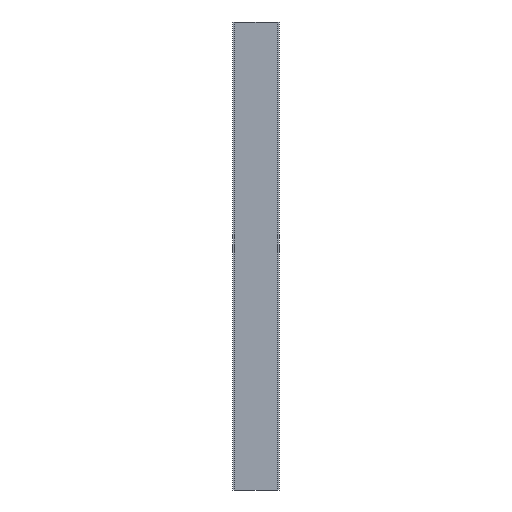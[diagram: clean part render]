
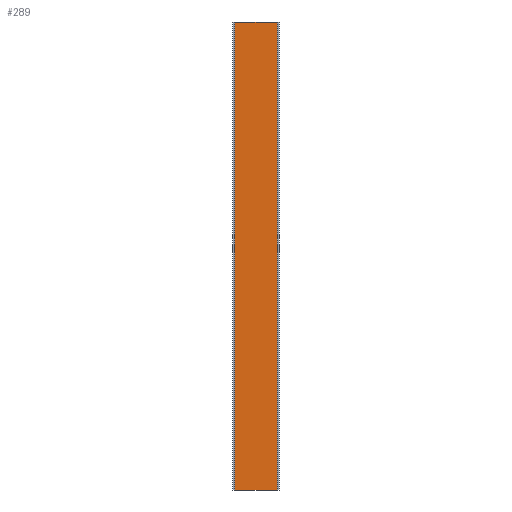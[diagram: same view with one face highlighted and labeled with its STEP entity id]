
A CAD part, left-side view. The second image highlights one B-rep face of the part: STEP entity #289.
In plain terms, the highlighted planar face has unit normal (-1, 0, 0).
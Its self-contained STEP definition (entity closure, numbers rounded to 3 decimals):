
#72 = PLANE('',#73);
#73 = AXIS2_PLACEMENT_3D('',#74,#75,#76);
#74 = CARTESIAN_POINT('',(0.,0.,2000.));
#75 = DIRECTION('',(-0.,-0.,1.));
#76 = DIRECTION('',(1.,0.,0.));
#126 = PLANE('',#127);
#127 = AXIS2_PLACEMENT_3D('',#128,#129,#130);
#128 = CARTESIAN_POINT('',(0.,0.,0.));
#129 = DIRECTION('',(-0.,-0.,1.));
#130 = DIRECTION('',(1.,0.,0.));
#181 = PLANE('',#182);
#182 = AXIS2_PLACEMENT_3D('',#183,#184,#185);
#183 = CARTESIAN_POINT('',(-50.,-91.5,0.));
#184 = DIRECTION('',(-0.,-1.,-0.));
#185 = DIRECTION('',(-1.,0.,0.));
#219 = VERTEX_POINT('',#220);
#220 = CARTESIAN_POINT('',(-2.8,-91.5,2000.));
#241 = EDGE_CURVE('',#242,#219,#244,.T.);
#242 = VERTEX_POINT('',#243);
#243 = CARTESIAN_POINT('',(-2.8,-91.5,0.));
#244 = SURFACE_CURVE('',#245,(#249,#256),.PCURVE_S1.);
#245 = LINE('',#246,#247);
#246 = CARTESIAN_POINT('',(-2.8,-91.5,0.));
#247 = VECTOR('',#248,1.);
#248 = DIRECTION('',(-0.,-0.,1.));
#249 = PCURVE('',#181,#250);
#250 = DEFINITIONAL_REPRESENTATION('',(#251),#255);
#251 = LINE('',#252,#253);
#252 = CARTESIAN_POINT('',(-47.2,0.));
#253 = VECTOR('',#254,1.);
#254 = DIRECTION('',(-0.,-1.));
#255 = ( GEOMETRIC_REPRESENTATION_CONTEXT(2) 
PARAMETRIC_REPRESENTATION_CONTEXT() REPRESENTATION_CONTEXT('2D SPACE',''
  ) );
#256 = PCURVE('',#257,#262);
#257 = PLANE('',#258);
#258 = AXIS2_PLACEMENT_3D('',#259,#260,#261);
#259 = CARTESIAN_POINT('',(-2.8,-91.5,0.));
#260 = DIRECTION('',(1.,-0.,-0.));
#261 = DIRECTION('',(0.,-1.,0.));
#262 = DEFINITIONAL_REPRESENTATION('',(#263),#267);
#263 = LINE('',#264,#265);
#264 = CARTESIAN_POINT('',(-0.,-0.));
#265 = VECTOR('',#266,1.);
#266 = DIRECTION('',(-0.,-1.));
#267 = ( GEOMETRIC_REPRESENTATION_CONTEXT(2) 
PARAMETRIC_REPRESENTATION_CONTEXT() REPRESENTATION_CONTEXT('2D SPACE',''
  ) );
#289 = ADVANCED_FACE('',(#290),#257,.F.);
#290 = FACE_BOUND('',#291,.T.);
#291 = EDGE_LOOP('',(#292,#293,#316,#344));
#292 = ORIENTED_EDGE('',*,*,#241,.T.);
#293 = ORIENTED_EDGE('',*,*,#294,.T.);
#294 = EDGE_CURVE('',#219,#295,#297,.T.);
#295 = VERTEX_POINT('',#296);
#296 = CARTESIAN_POINT('',(-2.8,91.5,2000.));
#297 = SURFACE_CURVE('',#298,(#302,#309),.PCURVE_S1.);
#298 = LINE('',#299,#300);
#299 = CARTESIAN_POINT('',(-2.8,-91.5,2000.));
#300 = VECTOR('',#301,1.);
#301 = DIRECTION('',(-0.,1.,-0.));
#302 = PCURVE('',#257,#303);
#303 = DEFINITIONAL_REPRESENTATION('',(#304),#308);
#304 = LINE('',#305,#306);
#305 = CARTESIAN_POINT('',(-0.,-2000.));
#306 = VECTOR('',#307,1.);
#307 = DIRECTION('',(-1.,0.));
#308 = ( GEOMETRIC_REPRESENTATION_CONTEXT(2) 
PARAMETRIC_REPRESENTATION_CONTEXT() REPRESENTATION_CONTEXT('2D SPACE',''
  ) );
#309 = PCURVE('',#72,#310);
#310 = DEFINITIONAL_REPRESENTATION('',(#311),#315);
#311 = LINE('',#312,#313);
#312 = CARTESIAN_POINT('',(-2.8,-91.5));
#313 = VECTOR('',#314,1.);
#314 = DIRECTION('',(-0.,1.));
#315 = ( GEOMETRIC_REPRESENTATION_CONTEXT(2) 
PARAMETRIC_REPRESENTATION_CONTEXT() REPRESENTATION_CONTEXT('2D SPACE',''
  ) );
#316 = ORIENTED_EDGE('',*,*,#317,.F.);
#317 = EDGE_CURVE('',#318,#295,#320,.T.);
#318 = VERTEX_POINT('',#319);
#319 = CARTESIAN_POINT('',(-2.8,91.5,0.));
#320 = SURFACE_CURVE('',#321,(#325,#332),.PCURVE_S1.);
#321 = LINE('',#322,#323);
#322 = CARTESIAN_POINT('',(-2.8,91.5,0.));
#323 = VECTOR('',#324,1.);
#324 = DIRECTION('',(-0.,-0.,1.));
#325 = PCURVE('',#257,#326);
#326 = DEFINITIONAL_REPRESENTATION('',(#327),#331);
#327 = LINE('',#328,#329);
#328 = CARTESIAN_POINT('',(-183.,-0.));
#329 = VECTOR('',#330,1.);
#330 = DIRECTION('',(-0.,-1.));
#331 = ( GEOMETRIC_REPRESENTATION_CONTEXT(2) 
PARAMETRIC_REPRESENTATION_CONTEXT() REPRESENTATION_CONTEXT('2D SPACE',''
  ) );
#332 = PCURVE('',#333,#338);
#333 = PLANE('',#334);
#334 = AXIS2_PLACEMENT_3D('',#335,#336,#337);
#335 = CARTESIAN_POINT('',(-2.8,91.5,0.));
#336 = DIRECTION('',(-0.,1.,-0.));
#337 = DIRECTION('',(1.,0.,0.));
#338 = DEFINITIONAL_REPRESENTATION('',(#339),#343);
#339 = LINE('',#340,#341);
#340 = CARTESIAN_POINT('',(-0.,-0.));
#341 = VECTOR('',#342,1.);
#342 = DIRECTION('',(-0.,-1.));
#343 = ( GEOMETRIC_REPRESENTATION_CONTEXT(2) 
PARAMETRIC_REPRESENTATION_CONTEXT() REPRESENTATION_CONTEXT('2D SPACE',''
  ) );
#344 = ORIENTED_EDGE('',*,*,#345,.F.);
#345 = EDGE_CURVE('',#242,#318,#346,.T.);
#346 = SURFACE_CURVE('',#347,(#351,#358),.PCURVE_S1.);
#347 = LINE('',#348,#349);
#348 = CARTESIAN_POINT('',(-2.8,-91.5,0.));
#349 = VECTOR('',#350,1.);
#350 = DIRECTION('',(-0.,1.,-0.));
#351 = PCURVE('',#257,#352);
#352 = DEFINITIONAL_REPRESENTATION('',(#353),#357);
#353 = LINE('',#354,#355);
#354 = CARTESIAN_POINT('',(-0.,-0.));
#355 = VECTOR('',#356,1.);
#356 = DIRECTION('',(-1.,0.));
#357 = ( GEOMETRIC_REPRESENTATION_CONTEXT(2) 
PARAMETRIC_REPRESENTATION_CONTEXT() REPRESENTATION_CONTEXT('2D SPACE',''
  ) );
#358 = PCURVE('',#126,#359);
#359 = DEFINITIONAL_REPRESENTATION('',(#360),#364);
#360 = LINE('',#361,#362);
#361 = CARTESIAN_POINT('',(-2.8,-91.5));
#362 = VECTOR('',#363,1.);
#363 = DIRECTION('',(-0.,1.));
#364 = ( GEOMETRIC_REPRESENTATION_CONTEXT(2) 
PARAMETRIC_REPRESENTATION_CONTEXT() REPRESENTATION_CONTEXT('2D SPACE',''
  ) );
